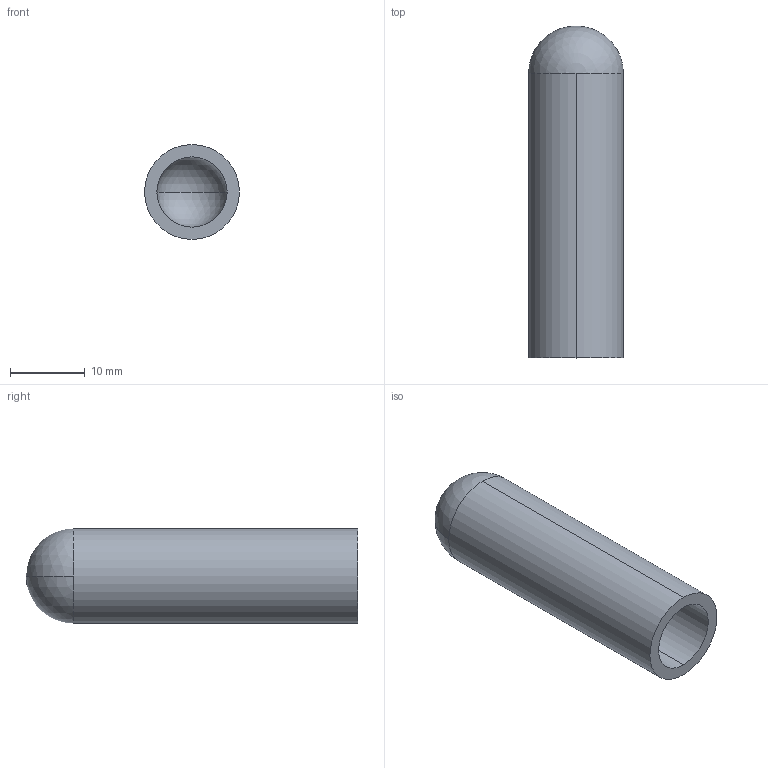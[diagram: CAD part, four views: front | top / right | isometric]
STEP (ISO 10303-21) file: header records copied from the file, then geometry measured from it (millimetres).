
FILE_DESCRIPTION (( 'STEP AP214' ), '1' );
FILE_NAME ('TE16W6L.5-...STEP', '2016-06-01T13:39:38', ( 'eran' ), ( '' ), 'SwSTEP 2.0', 'SolidWorks 2016', '' );
FILE_SCHEMA (( 'AUTOMOTIVE_DESIGN' ));
Length unit declared in the file: millimetre
Products named in the file (1): TE16W6L.5-..
Bounding box: 12.7 x 44.45 x 12.7 mm (x, y, z)
Volume: 2501.2 mm3; surface area: 3094.7 mm2
Topology: 1 solids, 1 shells, 9 faces, 24 edges, 14 vertices
Faces by surface type: cylinder 4, sphere 4, plane 1
Entity records: 300 total; most frequent: DIRECTION 56, CARTESIAN_POINT 44, ORIENTED_EDGE 40, AXIS2_PLACEMENT_3D 26, EDGE_CURVE 20, CIRCLE 16, VERTEX_POINT 14, EDGE_LOOP 10
